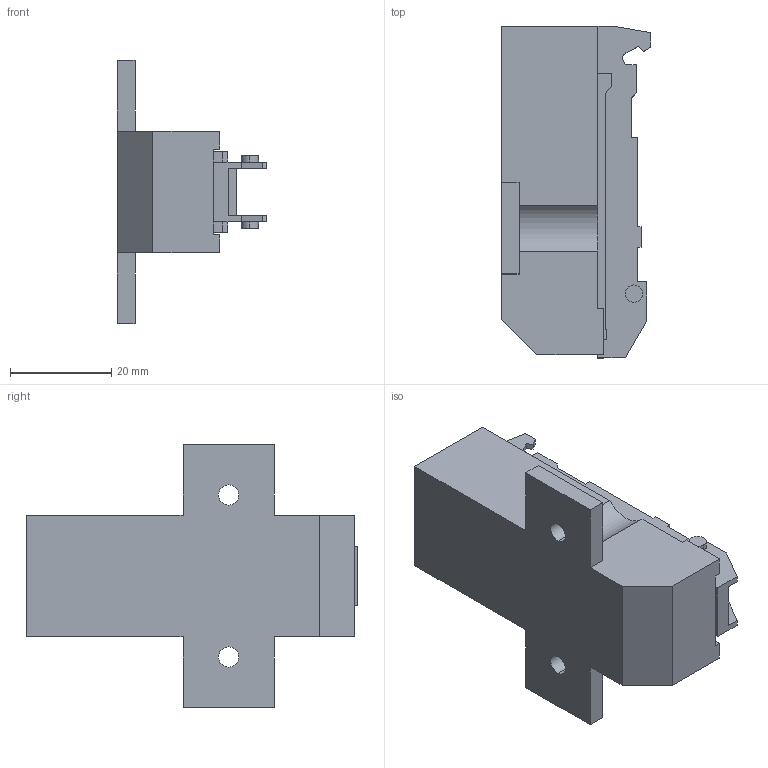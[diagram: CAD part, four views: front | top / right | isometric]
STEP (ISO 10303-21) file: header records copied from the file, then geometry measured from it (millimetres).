
FILE_DESCRIPTION (( 'STEP AP214' ), '1' );
FILE_NAME ('1D Kreuzmontageplatte_37_32_H19.STEP', '2011-08-18T14:04:32', ( '' ), ( '' ), 'SwSTEP 2.0', 'SolidWorks 2011', '' );
FILE_SCHEMA (( 'AUTOMOTIVE_DESIGN' ));
Length unit declared in the file: millimetre
Products named in the file (1): 1D Kreuzmontageplatte_37_32_H19
Bounding box: 29.5 x 65.55 x 52 mm (x, y, z)
Volume: 34057.2 mm3; surface area: 9757.4 mm2
Topology: 1 solids, 1 shells, 101 faces, 289 edges, 192 vertices
Faces by surface type: plane 89, cylinder 12
Entity records: 3293 total; most frequent: CARTESIAN_POINT 583, ORIENTED_EDGE 578, DIRECTION 517, EDGE_CURVE 289, LINE 265, VECTOR 265, VERTEX_POINT 192, AXIS2_PLACEMENT_3D 126
